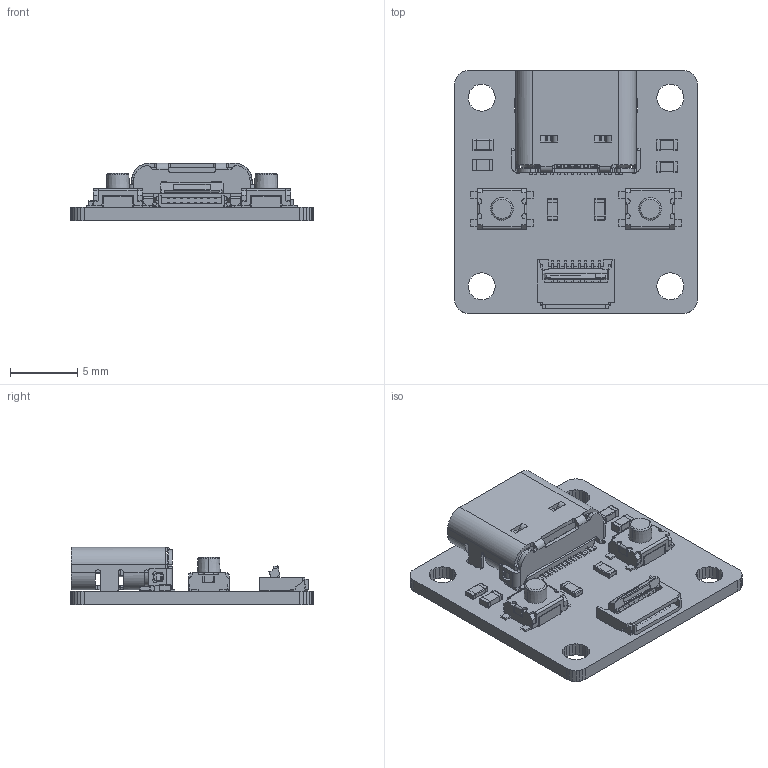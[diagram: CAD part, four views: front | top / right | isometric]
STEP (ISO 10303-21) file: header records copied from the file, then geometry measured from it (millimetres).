
FILE_DESCRIPTION(('Open CASCADE Model'),'2;1');
FILE_NAME('Open CASCADE Shape Model','2023-06-30T11:17:27',('Author'),( 'Open CASCADE'),'Open CASCADE STEP processor 6.5','Open CASCADE 6.5' ,'Unknown');
FILE_SCHEMA(('AUTOMOTIVE_DESIGN { 1 0 10303 214 1 1 1 1 }'));
Length unit declared in the file: millimetre
Products named in the file (45): PCB; Board; C1; CAPC1608(0603); C2; Key1; ts-1185ec-a-e-a-1; Key2; Led1; 442816400; Extruded; 442816528; R1; RESC1608(0603); R2; R3; Type_C1; 698b116-264-211; SOLID; U1; 503480-0800; COMPOUND
Assembly tree (49 placements, depth 4):
  PCB
    Board
    C1
      CAPC1608(0603)
    C2
      CAPC1608(0603)
    Key1
      ts-1185ec-a-e-a-1
    Key2
      ts-1185ec-a-e-a-1
    Led1
      442816400
        Extruded
      442816528  x2
        Extruded
    R1
      RESC1608(0603)
    R2
      RESC1608(0603)
    R3
      RESC1608(0603)
    Type_C1
      698b116-264-211
        SOLID
        SOLID
        SOLID
        SOLID
        SOLID
        SOLID
        SOLID
        SOLID
        SOLID
        SOLID
        SOLID
        SOLID
        SOLID
        SOLID
        SOLID
        SOLID
        SOLID
        SOLID
        SOLID
        SOLID
        SOLID
        SOLID
    U1
      503480-0800
        SOLID
        COMPOUND
Bounding box: 18.02 x 18.02 x 4.25 mm (x, y, z)
Volume: 474.5 mm3; surface area: 1673.4 mm2
Topology: 34 solids, 46 shells, 3066 faces, 8616 edges, 5653 vertices
Faces by surface type: plane 2204, cylinder 767, sphere 40, cone 40, torus 8, bspline 7
Full cylindrical faces by diameter (mm): 0.762 x2
Entity records: 229381 total; most frequent: CARTESIAN_POINT 78912, DIRECTION 25223, LINE 17134, VECTOR 17134, ORIENTED_EDGE 15720, PCURVE 15720, DEFINITIONAL_REPRESENTATION 15720, EDGE_CURVE 7860
